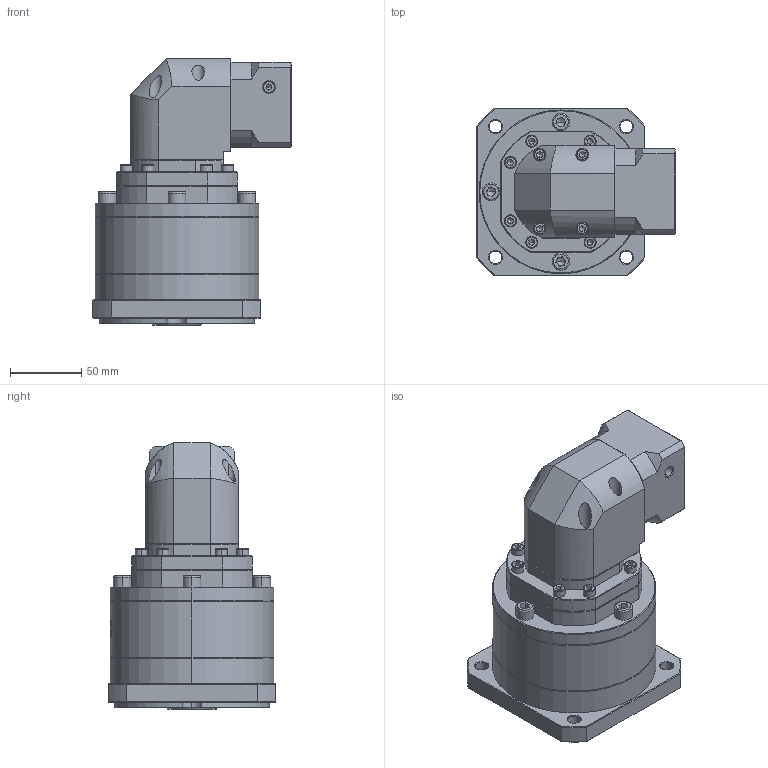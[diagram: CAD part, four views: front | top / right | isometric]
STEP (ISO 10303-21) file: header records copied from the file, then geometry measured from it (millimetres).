
FILE_DESCRIPTION (( 'STEP AP214' ), '1' );
FILE_NAME ('ZFR120A-K25-L3-P2-6.35-38.1-47.14x47.14-M4.step', '2023-08-27T09:51:48', ( '' ), ( '' ), 'SwSTEP 2.0', 'SolidWorks 2016', '' );
FILE_SCHEMA (( 'AUTOMOTIVE_DESIGN' ));
Length unit declared in the file: millimetre
Products named in the file (1): ZFR120A-K25-L3-P2-6.35-38.1-47.14x47.14-M4
Bounding box: 139.2 x 118 x 187.5 mm (x, y, z)
Volume: 1428078 mm3; surface area: 138654.7 mm2
Topology: 6 solids, 6 shells, 2375 faces, 6300 edges, 4042 vertices
Faces by surface type: plane 1166, bspline 438, cylinder 423, cone 340, torus 8
Entity records: 121902 total; most frequent: CARTESIAN_POINT 42049, ORIENTED_EDGE 12496, DIRECTION 9367, EDGE_CURVE 6248, VERTEX_POINT 4042, VECTOR 3349, LINE 3349, AXIS2_PLACEMENT_3D 3009
